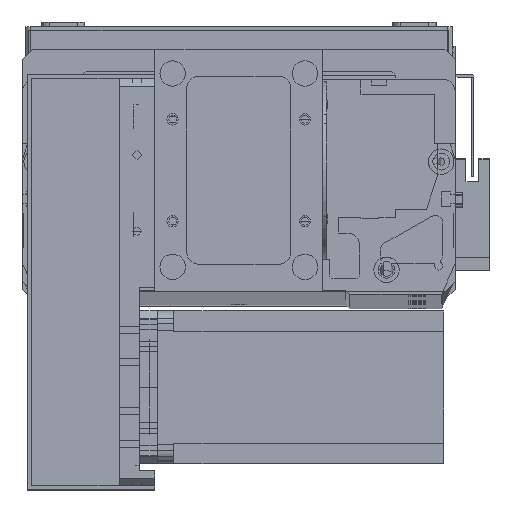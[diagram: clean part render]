
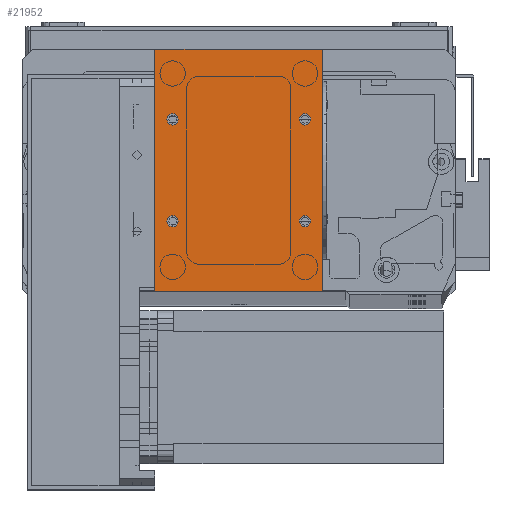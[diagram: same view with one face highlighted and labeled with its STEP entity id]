
A CAD part, top view. The second image highlights one B-rep face of the part: STEP entity #21952.
In plain terms, the highlighted planar face has unit normal (0, 0, 1).
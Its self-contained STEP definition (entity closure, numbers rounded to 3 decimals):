
#346 = EDGE_LOOP ( 'NONE', ( #28740, #11317 ) ) ;
#455 = DIRECTION ( 'NONE',  ( 1., 0., 0. ) ) ;
#499 = DIRECTION ( 'NONE',  ( 0., 0., 1. ) ) ;
#509 = CARTESIAN_POINT ( 'NONE',  ( 59., 27.5, 2. ) ) ;
#781 = CARTESIAN_POINT ( 'NONE',  ( 59., 67.5, 2. ) ) ;
#1342 = CARTESIAN_POINT ( 'NONE',  ( 66., 0., 2. ) ) ;
#2587 = DIRECTION ( 'NONE',  ( 1., 0., 0. ) ) ;
#2821 = DIRECTION ( 'NONE',  ( 0., 0., 1. ) ) ;
#3058 = CARTESIAN_POINT ( 'NONE',  ( 7., 27.5, 2. ) ) ;
#3227 = EDGE_CURVE ( 'NONE', #33791, #30209, #3770, .T. ) ;
#3282 = CARTESIAN_POINT ( 'NONE',  ( 7., 67.5, 2. ) ) ;
#3421 = CARTESIAN_POINT ( 'NONE',  ( 0., 0., 2. ) ) ;
#3476 = CARTESIAN_POINT ( 'NONE',  ( 0., 95., 2. ) ) ;
#3506 = DIRECTION ( 'NONE',  ( 1., 0., 0. ) ) ;
#3523 = DIRECTION ( 'NONE',  ( 0., 0., 1. ) ) ;
#3770 = CIRCLE ( 'NONE', #7343, 2.25 ) ;
#3908 = ORIENTED_EDGE ( 'NONE', *, *, #28855, .T. ) ;
#4019 = ORIENTED_EDGE ( 'NONE', *, *, #4835, .F. ) ;
#4083 = DIRECTION ( 'NONE',  ( 1., 0., 0. ) ) ;
#4091 = DIRECTION ( 'NONE',  ( 0., 0., 1. ) ) ;
#4140 = CARTESIAN_POINT ( 'NONE',  ( 59., 67.5, 2. ) ) ;
#4616 = EDGE_LOOP ( 'NONE', ( #4019, #26553 ) ) ;
#4835 = EDGE_CURVE ( 'NONE', #34174, #14330, #31131, .T. ) ;
#4986 = ORIENTED_EDGE ( 'NONE', *, *, #3227, .F. ) ;
#5231 = DIRECTION ( 'NONE',  ( 0., 0., 1. ) ) ;
#5531 = CARTESIAN_POINT ( 'NONE',  ( 9.25, 67.5, 2. ) ) ;
#6107 = DIRECTION ( 'NONE',  ( 1., 0., 0. ) ) ;
#6260 = DIRECTION ( 'NONE',  ( 0., 0., -1. ) ) ;
#6448 = DIRECTION ( 'NONE',  ( 0., -1., 0. ) ) ;
#6823 = EDGE_LOOP ( 'NONE', ( #32202, #4986 ) ) ;
#7343 = AXIS2_PLACEMENT_3D ( 'NONE', #3058, #2821, #2587 ) ;
#7523 = VERTEX_POINT ( 'NONE', #13165 ) ;
#7596 = VERTEX_POINT ( 'NONE', #11664 ) ;
#8137 = EDGE_CURVE ( 'NONE', #23896, #31049, #22631, .T. ) ;
#8289 = AXIS2_PLACEMENT_3D ( 'NONE', #509, #499, #455 ) ;
#8396 = ORIENTED_EDGE ( 'NONE', *, *, #33439, .T. ) ;
#8950 = DIRECTION ( 'NONE',  ( 0., 0., 1. ) ) ;
#9195 = CARTESIAN_POINT ( 'NONE',  ( 0., 0., 2. ) ) ;
#9678 = LINE ( 'NONE', #9195, #33915 ) ;
#10940 = ORIENTED_EDGE ( 'NONE', *, *, #33650, .T. ) ;
#10962 = ORIENTED_EDGE ( 'NONE', *, *, #26653, .F. ) ;
#11101 = EDGE_CURVE ( 'NONE', #14330, #34174, #26988, .T. ) ;
#11317 = ORIENTED_EDGE ( 'NONE', *, *, #8137, .F. ) ;
#11613 = CARTESIAN_POINT ( 'NONE',  ( 56.75, 67.5, 2. ) ) ;
#11664 = CARTESIAN_POINT ( 'NONE',  ( 4.75, 67.5, 2. ) ) ;
#11909 = FACE_BOUND ( 'NONE', #31675, .T. ) ;
#11940 = CIRCLE ( 'NONE', #17528, 2.25 ) ;
#12808 = LINE ( 'NONE', #16224, #26178 ) ;
#12867 = AXIS2_PLACEMENT_3D ( 'NONE', #781, #5231, #3506 ) ;
#13165 = CARTESIAN_POINT ( 'NONE',  ( 0., 0., 2. ) ) ;
#13758 = CARTESIAN_POINT ( 'NONE',  ( 4.75, 27.5, 2. ) ) ;
#14051 = CIRCLE ( 'NONE', #17324, 2.25 ) ;
#14330 = VERTEX_POINT ( 'NONE', #11613 ) ;
#14836 = VECTOR ( 'NONE', #26613, 1000. ) ;
#15819 = CIRCLE ( 'NONE', #18602, 2.25 ) ;
#15874 = CARTESIAN_POINT ( 'NONE',  ( 0., 95., 2. ) ) ;
#16224 = CARTESIAN_POINT ( 'NONE',  ( 0., 0., 2. ) ) ;
#16484 = CARTESIAN_POINT ( 'NONE',  ( 7., 67.5, 2. ) ) ;
#17324 = AXIS2_PLACEMENT_3D ( 'NONE', #25104, #8950, #27746 ) ;
#17410 = FACE_OUTER_BOUND ( 'NONE', #33928, .T. ) ;
#17528 = AXIS2_PLACEMENT_3D ( 'NONE', #16484, #35042, #19152 ) ;
#17894 = CARTESIAN_POINT ( 'NONE',  ( 66., 95., 2. ) ) ;
#18159 = ORIENTED_EDGE ( 'NONE', *, *, #31285, .T. ) ;
#18602 = AXIS2_PLACEMENT_3D ( 'NONE', #3282, #22327, #6107 ) ;
#19152 = DIRECTION ( 'NONE',  ( 1., 0., 0. ) ) ;
#19760 = PLANE ( 'NONE',  #31157 ) ;
#19869 = CARTESIAN_POINT ( 'NONE',  ( 7., 27.5, 2. ) ) ;
#20109 = EDGE_CURVE ( 'NONE', #30209, #33791, #22568, .T. ) ;
#20303 = VERTEX_POINT ( 'NONE', #17894 ) ;
#20410 = ORIENTED_EDGE ( 'NONE', *, *, #28384, .F. ) ;
#20495 = DIRECTION ( 'NONE',  ( 0., 1., 0. ) ) ;
#21247 = LINE ( 'NONE', #1342, #28321 ) ;
#21911 = LINE ( 'NONE', #15874, #14836 ) ;
#21952 = ADVANCED_FACE ( 'NONE', ( #11909, #31570, #32366, #24492, #17410 ), #19760, .F. ) ;
#22327 = DIRECTION ( 'NONE',  ( 0., 0., 1. ) ) ;
#22568 = CIRCLE ( 'NONE', #34593, 2.25 ) ;
#22570 = DIRECTION ( 'NONE',  ( 1., 0., 0. ) ) ;
#22631 = CIRCLE ( 'NONE', #8289, 2.25 ) ;
#23896 = VERTEX_POINT ( 'NONE', #32849 ) ;
#24492 = FACE_BOUND ( 'NONE', #6823, .T. ) ;
#25104 = CARTESIAN_POINT ( 'NONE',  ( 59., 27.5, 2. ) ) ;
#25168 = DIRECTION ( 'NONE',  ( -1., 0., 0. ) ) ;
#26178 = VECTOR ( 'NONE', #34788, 1000. ) ;
#26553 = ORIENTED_EDGE ( 'NONE', *, *, #11101, .F. ) ;
#26569 = CARTESIAN_POINT ( 'NONE',  ( 61.25, 67.5, 2. ) ) ;
#26613 = DIRECTION ( 'NONE',  ( -1., 0., 0. ) ) ;
#26653 = EDGE_CURVE ( 'NONE', #7596, #27692, #15819, .T. ) ;
#26988 = CIRCLE ( 'NONE', #33906, 2.25 ) ;
#27692 = VERTEX_POINT ( 'NONE', #5531 ) ;
#27746 = DIRECTION ( 'NONE',  ( 1., 0., 0. ) ) ;
#28321 = VECTOR ( 'NONE', #20495, 1000. ) ;
#28384 = EDGE_CURVE ( 'NONE', #27692, #7596, #11940, .T. ) ;
#28740 = ORIENTED_EDGE ( 'NONE', *, *, #29052, .F. ) ;
#28832 = CARTESIAN_POINT ( 'NONE',  ( 9.25, 27.5, 2. ) ) ;
#28855 = EDGE_CURVE ( 'NONE', #7523, #30571, #12808, .T. ) ;
#29052 = EDGE_CURVE ( 'NONE', #31049, #23896, #14051, .T. ) ;
#30153 = CARTESIAN_POINT ( 'NONE',  ( 61.25, 27.5, 2. ) ) ;
#30209 = VERTEX_POINT ( 'NONE', #28832 ) ;
#30571 = VERTEX_POINT ( 'NONE', #33267 ) ;
#31049 = VERTEX_POINT ( 'NONE', #30153 ) ;
#31131 = CIRCLE ( 'NONE', #12867, 2.25 ) ;
#31157 = AXIS2_PLACEMENT_3D ( 'NONE', #3421, #6260, #25168 ) ;
#31285 = EDGE_CURVE ( 'NONE', #30571, #20303, #21247, .T. ) ;
#31570 = FACE_BOUND ( 'NONE', #4616, .T. ) ;
#31675 = EDGE_LOOP ( 'NONE', ( #20410, #10962 ) ) ;
#32202 = ORIENTED_EDGE ( 'NONE', *, *, #20109, .F. ) ;
#32366 = FACE_BOUND ( 'NONE', #346, .T. ) ;
#32849 = CARTESIAN_POINT ( 'NONE',  ( 56.75, 27.5, 2. ) ) ;
#33267 = CARTESIAN_POINT ( 'NONE',  ( 66., 0., 2. ) ) ;
#33439 = EDGE_CURVE ( 'NONE', #33868, #7523, #9678, .T. ) ;
#33650 = EDGE_CURVE ( 'NONE', #20303, #33868, #21911, .T. ) ;
#33791 = VERTEX_POINT ( 'NONE', #13758 ) ;
#33868 = VERTEX_POINT ( 'NONE', #3476 ) ;
#33906 = AXIS2_PLACEMENT_3D ( 'NONE', #4140, #4091, #4083 ) ;
#33915 = VECTOR ( 'NONE', #6448, 1000. ) ;
#33928 = EDGE_LOOP ( 'NONE', ( #8396, #3908, #18159, #10940 ) ) ;
#34174 = VERTEX_POINT ( 'NONE', #26569 ) ;
#34593 = AXIS2_PLACEMENT_3D ( 'NONE', #19869, #3523, #22570 ) ;
#34788 = DIRECTION ( 'NONE',  ( 1., 0., 0. ) ) ;
#35042 = DIRECTION ( 'NONE',  ( 0., 0., 1. ) ) ;
